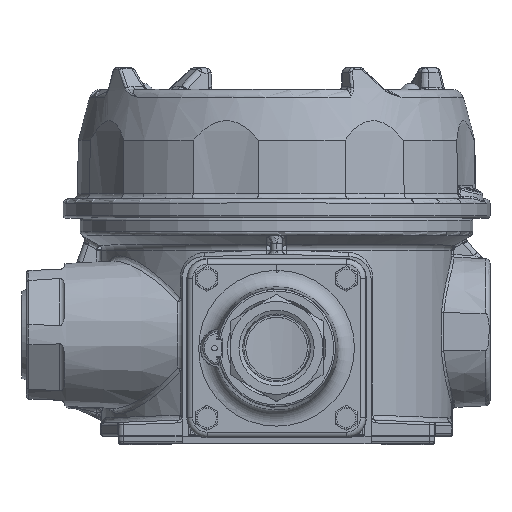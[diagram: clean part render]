
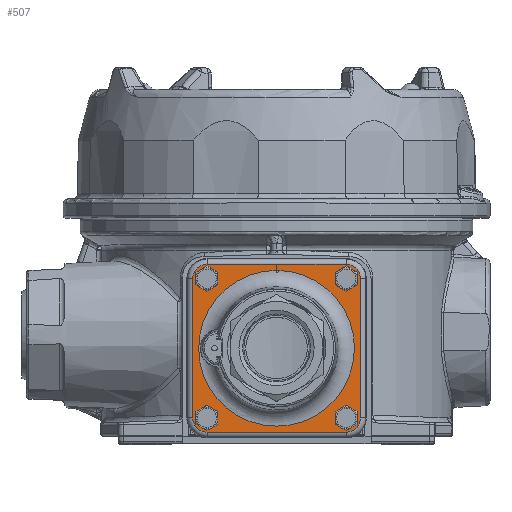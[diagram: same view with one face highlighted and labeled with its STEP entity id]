
A CAD part, top view. The second image highlights one B-rep face of the part: STEP entity #507.
In plain terms, the highlighted planar face has unit normal (0, 0, 1).
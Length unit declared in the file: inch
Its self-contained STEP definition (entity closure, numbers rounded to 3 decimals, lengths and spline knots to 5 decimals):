
#84 = ORIENTED_EDGE ( 'NONE', *, *, #36365, .T. ) ;
#270 = CARTESIAN_POINT ( 'NONE',  ( 0.00361, 0.89049, 2.48416 ) ) ;
#419 = VECTOR ( 'NONE', #17702, 39.37008 ) ;
#507 = ADVANCED_FACE ( 'NONE', ( #30808, #2366, #24874, #36772, #18131 ), #33265, .T. ) ;
#1549 = DIRECTION ( 'NONE',  ( 0., 1., 0. ) ) ;
#2212 = VECTOR ( 'NONE', #29156, 39.37008 ) ;
#2366 = FACE_BOUND ( 'NONE', #35060, .T. ) ;
#2776 = DIRECTION ( 'NONE',  ( 0., 1., 0. ) ) ;
#3408 = ORIENTED_EDGE ( 'NONE', *, *, #34254, .T. ) ;
#3709 = EDGE_CURVE ( 'NONE', #12107, #21062, #33231, .T. ) ;
#3932 = EDGE_CURVE ( 'NONE', #9572, #16212, #5325, .T. ) ;
#4015 = VERTEX_POINT ( 'NONE', #5127 ) ;
#4614 = ORIENTED_EDGE ( 'NONE', *, *, #17179, .T. ) ;
#4908 = DIRECTION ( 'NONE',  ( 0., 1., 0. ) ) ;
#4968 = AXIS2_PLACEMENT_3D ( 'NONE', #31783, #10099, #35067 ) ;
#5127 = CARTESIAN_POINT ( 'NONE',  ( -0.95922, -0.795, 2.48416 ) ) ;
#5219 = DIRECTION ( 'NONE',  ( 0., 1., 0. ) ) ;
#5227 = CARTESIAN_POINT ( 'NONE',  ( 0.795, -0.95922, 2.48416 ) ) ;
#5289 = AXIS2_PLACEMENT_3D ( 'NONE', #26529, #23264, #1549 ) ;
#5325 = LINE ( 'NONE', #29488, #29869 ) ;
#5656 = DIRECTION ( 'NONE',  ( 0., 0., 1. ) ) ;
#5842 = LINE ( 'NONE', #30601, #21841 ) ;
#8050 = DIRECTION ( 'NONE',  ( 0., 1., 0. ) ) ;
#8277 = VERTEX_POINT ( 'NONE', #11534 ) ;
#8325 = CARTESIAN_POINT ( 'NONE',  ( 0.795, 0.795, 2.48416 ) ) ;
#9169 = ORIENTED_EDGE ( 'NONE', *, *, #20025, .T. ) ;
#9572 = VERTEX_POINT ( 'NONE', #36659 ) ;
#9780 = ORIENTED_EDGE ( 'NONE', *, *, #21730, .T. ) ;
#9797 = DIRECTION ( 'NONE',  ( 0., -1., 0. ) ) ;
#9908 = CARTESIAN_POINT ( 'NONE',  ( 0.7965, 0.7965, 2.48416 ) ) ;
#9975 = CARTESIAN_POINT ( 'NONE',  ( 0.7965, -0.7965, 2.48416 ) ) ;
#9991 = VERTEX_POINT ( 'NONE', #36612 ) ;
#10064 = CARTESIAN_POINT ( 'NONE',  ( -0.00481, 0.95922, 2.48416 ) ) ;
#10099 = DIRECTION ( 'NONE',  ( 0., 0., 1. ) ) ;
#11488 = AXIS2_PLACEMENT_3D ( 'NONE', #15933, #35174, #13068 ) ;
#11534 = CARTESIAN_POINT ( 'NONE',  ( -0.7965, -0.885, 2.48416 ) ) ;
#11883 = CARTESIAN_POINT ( 'NONE',  ( 0.795, 0.95922, 2.48416 ) ) ;
#12107 = VERTEX_POINT ( 'NONE', #33855 ) ;
#13068 = DIRECTION ( 'NONE',  ( 0., 1., 0. ) ) ;
#13379 = LINE ( 'NONE', #17077, #2212 ) ;
#13907 = AXIS2_PLACEMENT_3D ( 'NONE', #20769, #35931, #5219 ) ;
#14403 = EDGE_CURVE ( 'NONE', #21062, #9991, #17777, .T. ) ;
#14709 = VERTEX_POINT ( 'NONE', #16514 ) ;
#15933 = CARTESIAN_POINT ( 'NONE',  ( -0.795, -0.795, 2.48416 ) ) ;
#16027 = EDGE_CURVE ( 'NONE', #16212, #24172, #23731, .T. ) ;
#16043 = LINE ( 'NONE', #26461, #30393 ) ;
#16212 = VERTEX_POINT ( 'NONE', #270 ) ;
#16269 = CARTESIAN_POINT ( 'NONE',  ( 0.7965, 0.708, 2.48416 ) ) ;
#16514 = CARTESIAN_POINT ( 'NONE',  ( -0.795, 0.95922, 2.48416 ) ) ;
#16641 = AXIS2_PLACEMENT_3D ( 'NONE', #8325, #5656, #2776 ) ;
#16980 = ORIENTED_EDGE ( 'NONE', *, *, #34363, .T. ) ;
#17077 = CARTESIAN_POINT ( 'NONE',  ( -0.795, 0.95922, 2.48416 ) ) ;
#17179 = EDGE_CURVE ( 'NONE', #34489, #34489, #17259, .T. ) ;
#17259 = CIRCLE ( 'NONE', #35577, 0.0885 ) ;
#17702 = DIRECTION ( 'NONE',  ( 1., 0., 0. ) ) ;
#17777 = CIRCLE ( 'NONE', #34781, 0.16422 ) ;
#17848 = CARTESIAN_POINT ( 'NONE',  ( 0.95922, 0.795, 2.48416 ) ) ;
#17878 = CARTESIAN_POINT ( 'NONE',  ( 0.7965, -0.885, 2.48416 ) ) ;
#17982 = VECTOR ( 'NONE', #39398, 39.37008 ) ;
#18131 = FACE_BOUND ( 'NONE', #22628, .T. ) ;
#18398 = AXIS2_PLACEMENT_3D ( 'NONE', #9975, #23055, #34932 ) ;
#18927 = ORIENTED_EDGE ( 'NONE', *, *, #14403, .T. ) ;
#19009 = CARTESIAN_POINT ( 'NONE',  ( -0.7965, 0.7965, 2.48416 ) ) ;
#19051 = EDGE_CURVE ( 'NONE', #9991, #37250, #39547, .T. ) ;
#19064 = DIRECTION ( 'NONE',  ( 0., 0., -1. ) ) ;
#19155 = ORIENTED_EDGE ( 'NONE', *, *, #3932, .T. ) ;
#19303 = EDGE_LOOP ( 'NONE', ( #4614 ) ) ;
#20025 = EDGE_CURVE ( 'NONE', #29425, #14709, #13379, .T. ) ;
#20387 = CARTESIAN_POINT ( 'NONE',  ( -0.95922, -0.795, 2.48416 ) ) ;
#20769 = CARTESIAN_POINT ( 'NONE',  ( 0., 0., 2.48416 ) ) ;
#21047 = ORIENTED_EDGE ( 'NONE', *, *, #38952, .T. ) ;
#21057 = ORIENTED_EDGE ( 'NONE', *, *, #21422, .T. ) ;
#21062 = VERTEX_POINT ( 'NONE', #40459 ) ;
#21422 = EDGE_CURVE ( 'NONE', #14709, #31440, #36969, .T. ) ;
#21604 = ORIENTED_EDGE ( 'NONE', *, *, #39747, .T. ) ;
#21700 = CIRCLE ( 'NONE', #39346, 0.0885 ) ;
#21730 = EDGE_CURVE ( 'NONE', #4015, #12107, #31724, .T. ) ;
#21841 = VECTOR ( 'NONE', #40015, 39.37008 ) ;
#21867 = CIRCLE ( 'NONE', #32967, 0.0885 ) ;
#21959 = CARTESIAN_POINT ( 'NONE',  ( -0.7965, 0.708, 2.48416 ) ) ;
#22628 = EDGE_LOOP ( 'NONE', ( #3408 ) ) ;
#23055 = DIRECTION ( 'NONE',  ( 0., 0., -1. ) ) ;
#23198 = DIRECTION ( 'NONE',  ( 0., 0., -1. ) ) ;
#23264 = DIRECTION ( 'NONE',  ( 0., 0., 1. ) ) ;
#23731 = CIRCLE ( 'NONE', #13907, 0.8905 ) ;
#23985 = CARTESIAN_POINT ( 'NONE',  ( -0.95922, 0.795, 2.48416 ) ) ;
#24172 = VERTEX_POINT ( 'NONE', #40280 ) ;
#24778 = EDGE_LOOP ( 'NONE', ( #19155, #38087, #30921, #9169, #21057, #37161, #9780, #29233, #18927, #30353, #16980, #21047 ) ) ;
#24874 = FACE_BOUND ( 'NONE', #19303, .T. ) ;
#25248 = VERTEX_POINT ( 'NONE', #21959 ) ;
#25313 = CARTESIAN_POINT ( 'NONE',  ( 0.95922, 0.795, 2.48416 ) ) ;
#25363 = EDGE_CURVE ( 'NONE', #31440, #4015, #35745, .T. ) ;
#25718 = EDGE_CURVE ( 'NONE', #24172, #29425, #16043, .T. ) ;
#26401 = DIRECTION ( 'NONE',  ( 0., -1., 0. ) ) ;
#26461 = CARTESIAN_POINT ( 'NONE',  ( -0.00481, 0.86547, 2.48416 ) ) ;
#26529 = CARTESIAN_POINT ( 'NONE',  ( 0.795, 0.795, 2.48416 ) ) ;
#28619 = DIRECTION ( 'NONE',  ( 0., 0., -1. ) ) ;
#28813 = CIRCLE ( 'NONE', #5289, 0.16422 ) ;
#28936 = DIRECTION ( 'NONE',  ( 0., -1., 0. ) ) ;
#29156 = DIRECTION ( 'NONE',  ( -1., 0., 0. ) ) ;
#29233 = ORIENTED_EDGE ( 'NONE', *, *, #3709, .T. ) ;
#29425 = VERTEX_POINT ( 'NONE', #10064 ) ;
#29488 = CARTESIAN_POINT ( 'NONE',  ( 0.00361, 0.95922, 2.48416 ) ) ;
#29869 = VECTOR ( 'NONE', #26401, 39.37008 ) ;
#30353 = ORIENTED_EDGE ( 'NONE', *, *, #19051, .T. ) ;
#30393 = VECTOR ( 'NONE', #8050, 39.37008 ) ;
#30579 = EDGE_LOOP ( 'NONE', ( #21604 ) ) ;
#30601 = CARTESIAN_POINT ( 'NONE',  ( -0.795, 0.95922, 2.48416 ) ) ;
#30808 = FACE_OUTER_BOUND ( 'NONE', #24778, .T. ) ;
#30921 = ORIENTED_EDGE ( 'NONE', *, *, #25718, .T. ) ;
#31440 = VERTEX_POINT ( 'NONE', #23985 ) ;
#31724 = CIRCLE ( 'NONE', #11488, 0.16422 ) ;
#31783 = CARTESIAN_POINT ( 'NONE',  ( -0.795, 0.795, 2.48416 ) ) ;
#32346 = DIRECTION ( 'NONE',  ( 0., -1., 0. ) ) ;
#32915 = DIRECTION ( 'NONE',  ( 0., 0., 1. ) ) ;
#32967 = AXIS2_PLACEMENT_3D ( 'NONE', #19009, #28619, #9797 ) ;
#33231 = LINE ( 'NONE', #5227, #419 ) ;
#33265 = PLANE ( 'NONE',  #16641 ) ;
#33388 = DIRECTION ( 'NONE',  ( 0., 1., 0. ) ) ;
#33855 = CARTESIAN_POINT ( 'NONE',  ( -0.795, -0.95922, 2.48416 ) ) ;
#34026 = VERTEX_POINT ( 'NONE', #17878 ) ;
#34254 = EDGE_CURVE ( 'NONE', #34026, #34026, #36078, .T. ) ;
#34363 = EDGE_CURVE ( 'NONE', #37250, #36285, #28813, .T. ) ;
#34489 = VERTEX_POINT ( 'NONE', #16269 ) ;
#34781 = AXIS2_PLACEMENT_3D ( 'NONE', #39866, #32915, #4908 ) ;
#34932 = DIRECTION ( 'NONE',  ( 0., -1., 0. ) ) ;
#35060 = EDGE_LOOP ( 'NONE', ( #84 ) ) ;
#35067 = DIRECTION ( 'NONE',  ( 0., 1., 0. ) ) ;
#35174 = DIRECTION ( 'NONE',  ( 0., 0., 1. ) ) ;
#35577 = AXIS2_PLACEMENT_3D ( 'NONE', #9908, #23198, #28936 ) ;
#35745 = LINE ( 'NONE', #20387, #17982 ) ;
#35931 = DIRECTION ( 'NONE',  ( 0., 0., -1. ) ) ;
#36078 = CIRCLE ( 'NONE', #18398, 0.0885 ) ;
#36285 = VERTEX_POINT ( 'NONE', #11883 ) ;
#36365 = EDGE_CURVE ( 'NONE', #8277, #8277, #21700, .T. ) ;
#36612 = CARTESIAN_POINT ( 'NONE',  ( 0.95922, -0.795, 2.48416 ) ) ;
#36659 = CARTESIAN_POINT ( 'NONE',  ( 0.00361, 0.95922, 2.48416 ) ) ;
#36772 = FACE_BOUND ( 'NONE', #30579, .T. ) ;
#36969 = CIRCLE ( 'NONE', #4968, 0.16422 ) ;
#37161 = ORIENTED_EDGE ( 'NONE', *, *, #25363, .T. ) ;
#37250 = VERTEX_POINT ( 'NONE', #25313 ) ;
#37483 = CARTESIAN_POINT ( 'NONE',  ( -0.7965, -0.7965, 2.48416 ) ) ;
#38087 = ORIENTED_EDGE ( 'NONE', *, *, #16027, .T. ) ;
#38785 = VECTOR ( 'NONE', #33388, 39.37008 ) ;
#38952 = EDGE_CURVE ( 'NONE', #36285, #9572, #5842, .T. ) ;
#39346 = AXIS2_PLACEMENT_3D ( 'NONE', #37483, #19064, #32346 ) ;
#39398 = DIRECTION ( 'NONE',  ( 0., -1., 0. ) ) ;
#39547 = LINE ( 'NONE', #17848, #38785 ) ;
#39747 = EDGE_CURVE ( 'NONE', #25248, #25248, #21867, .T. ) ;
#39866 = CARTESIAN_POINT ( 'NONE',  ( 0.795, -0.795, 2.48416 ) ) ;
#40015 = DIRECTION ( 'NONE',  ( -1., 0., 0. ) ) ;
#40280 = CARTESIAN_POINT ( 'NONE',  ( -0.00481, 0.89048, 2.48416 ) ) ;
#40459 = CARTESIAN_POINT ( 'NONE',  ( 0.795, -0.95922, 2.48416 ) ) ;
